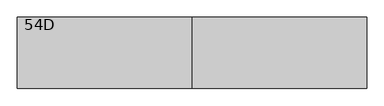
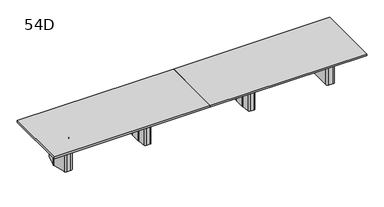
"""IFC4 building model written with IfcOpenShell, lengths in millimetres: furniture geometry, Coalesse_AM_Table_Conference_ETable2_Rectangular_22ft_FourBase : 54D."""

from ifc_helpers import new_model, si_unit, frame, origin, place, context, project, spatial, polyline, circle_curve, outline, extrude, source, transform, mapped, element, save
from ifc_brep_helpers import plane_surface, cylinder_surface, revolved_surface, advanced_brep


def furniture_54d_f987d63c(model_context):
    return source(origin(), model_context, "Body", "SolidModel", [
        advanced_brep(
        [(1153.31875, 206.375, 3.175), (1127.91875, 231.775, 3.175), (1107.28125, 231.775, 3.175), (1081.88125, 206.375, 3.175), (1081.88125, -206.375, 3.175), (1107.28125, -231.775, 3.175), (1127.91875, -231.775, 3.175), (1153.31875, -206.375, 3.175), (1056.48125, 206.375, 0.0), (1107.28125, 257.175, 0.0), (1127.91875, 257.175, 0.0), (1178.71875, 206.375, 0.0), (1178.71875, -206.375, 0.0), (1127.91875, -257.175, 0.0), (1107.28125, -257.175, 0.0), (1056.48125, -206.375, 0.0), (1056.48125, -206.375, 3.175), (1056.48125, 206.375, 3.175), (1107.28125, -257.175, 3.175), (1127.91875, -257.175, 3.175), (1178.71875, -206.375, 3.175), (1178.71875, 206.375, 3.175), (1127.91875, 257.175, 3.175), (1107.28125, 257.175, 3.175), (1024.9784026, 106.2976848, 698.5), (1024.73125, 102.7629613, 698.5), (1024.73125, -102.7629613, 698.5), (1024.9784026, -106.2976848, 698.5), (1049.8011625, -282.9347235, 698.5), (1074.9540098, -304.8, 698.5), (1160.2459902, -304.8, 698.5), (1185.3988375, -282.9347235, 698.5), (1210.2215974, -106.2976848, 698.5), (1210.46875, -102.7629613, 698.5), (1210.46875, 102.7629613, 698.5), (1210.2215974, 106.2976848, 698.5), (1185.3988375, 282.9347235, 698.5), (1160.2459902, 304.8, 698.5), (1074.9540098, 304.8, 698.5), (1049.8011625, 282.9347235, 698.5), (1127.91875, 231.775, 698.5), (1153.31875, 206.375, 698.5), (1153.31875, -206.375, 698.5), (1127.91875, -231.775, 698.5), (1107.28125, -231.775, 698.5), (1081.88125, -206.375, 698.5), (1081.88125, 206.375, 698.5), (1107.28125, 231.775, 698.5), (1024.9784026, 106.2976848, 3.175), (1049.8011625, 282.9347235, 3.175), (1074.9540098, 304.8, 3.175), (1160.2459902, 304.8, 3.175), (1185.3988375, 282.9347235, 3.175), (1210.2215974, 106.2976848, 3.175), (1210.46875, 102.7629613, 3.175), (1210.46875, -102.7629613, 3.175), (1210.2215974, -106.2976848, 3.175), (1185.3988375, -282.9347235, 3.175), (1160.2459902, -304.8, 3.175), (1074.9540098, -304.8, 3.175), (1049.8011625, -282.9347235, 3.175), (1024.9784026, -106.2976848, 3.175), (1024.73125, -102.7629613, 3.175), (1024.73125, 102.7629613, 3.175)],
        [
            (0, 1, circle_curve(frame((1127.91875, 206.375, 3.175), z_axis=(0.0, 0.0, 1.0), x_axis=(1.0, 0.0, 0.0)), 25.4)),
            (1, 2),
            (2, 3, circle_curve(frame((1107.28125, 206.375, 3.175), z_axis=(0.0, 0.0, 1.0), x_axis=(1.0, 0.0, 0.0)), 25.4)),
            (3, 4),
            (4, 5, circle_curve(frame((1107.28125, -206.375, 3.175), z_axis=(0.0, 0.0, 1.0), x_axis=(1.0, 0.0, 0.0)), 25.4)),
            (5, 6),
            (6, 7, circle_curve(frame((1127.91875, -206.375, 3.175), z_axis=(0.0, 0.0, 1.0), x_axis=(1.0, 0.0, 0.0)), 25.4)),
            (7, 0),
            (8, 9, circle_curve(frame((1107.28125, 206.375, 0.0), z_axis=(0.0, 0.0, -1.0), x_axis=(1.0, 0.0, 0.0)), 50.8)),
            (9, 10),
            (10, 11, circle_curve(frame((1127.91875, 206.375, 0.0), z_axis=(0.0, 0.0, -1.0), x_axis=(1.0, 0.0, 0.0)), 50.8)),
            (11, 12),
            (12, 13, circle_curve(frame((1127.91875, -206.375, 0.0), z_axis=(0.0, 0.0, -1.0), x_axis=(1.0, 0.0, 0.0)), 50.8)),
            (13, 14),
            (14, 15, circle_curve(frame((1107.28125, -206.375, 0.0), z_axis=(0.0, 0.0, -1.0), x_axis=(1.0, 0.0, 0.0)), 50.8)),
            (15, 8),
            (15, 16),
            (16, 17),
            (17, 8),
            (14, 18),
            (18, 16, circle_curve(frame((1107.28125, -206.375, 3.175), z_axis=(0.0, 0.0, -1.0), x_axis=(1.0, 0.0, 0.0)), 50.8)),
            (13, 19),
            (19, 18),
            (12, 20),
            (20, 19, circle_curve(frame((1127.91875, -206.375, 3.175), z_axis=(0.0, 0.0, -1.0), x_axis=(1.0, 0.0, 0.0)), 50.8)),
            (11, 21),
            (21, 20),
            (10, 22),
            (22, 21, circle_curve(frame((1127.91875, 206.375, 3.175), z_axis=(0.0, 0.0, -1.0), x_axis=(1.0, 0.0, 0.0)), 50.8)),
            (9, 23),
            (23, 22),
            (17, 23, circle_curve(frame((1107.28125, 206.375, 3.175), z_axis=(0.0, 0.0, -1.0), x_axis=(1.0, 0.0, 0.0)), 50.8)),
            (24, 25, circle_curve(frame((1050.13125, 102.7629613, 698.5), z_axis=(0.0, 0.0, 1.0), x_axis=(1.0, 0.0, 0.0)), 25.4)),
            (25, 26),
            (26, 27, circle_curve(frame((1050.13125, -102.7629613, 698.5), z_axis=(0.0, 0.0, 1.0), x_axis=(1.0, 0.0, 0.0)), 25.4)),
            (27, 28),
            (28, 29, circle_curve(frame((1074.9540098, -279.4, 698.5), z_axis=(0.0, 0.0, 1.0), x_axis=(1.0, 0.0, 0.0)), 25.4)),
            (29, 30),
            (30, 31, circle_curve(frame((1160.2459902, -279.4, 698.5), z_axis=(0.0, 0.0, 1.0), x_axis=(1.0, 0.0, 0.0)), 25.4)),
            (31, 32),
            (32, 33, circle_curve(frame((1185.06875, -102.7629613, 698.5), z_axis=(0.0, 0.0, 1.0), x_axis=(1.0, 0.0, 0.0)), 25.4)),
            (33, 34),
            (34, 35, circle_curve(frame((1185.06875, 102.7629613, 698.5), z_axis=(0.0, 0.0, 1.0), x_axis=(1.0, 0.0, 0.0)), 25.4)),
            (35, 36),
            (36, 37, circle_curve(frame((1160.2459902, 279.4, 698.5), z_axis=(0.0, 0.0, 1.0), x_axis=(1.0, 0.0, 0.0)), 25.4)),
            (37, 38),
            (38, 39, circle_curve(frame((1074.9540098, 279.4, 698.5), z_axis=(0.0, 0.0, 1.0), x_axis=(1.0, 0.0, 0.0)), 25.4)),
            (39, 24),
            (40, 41, circle_curve(frame((1127.91875, 206.375, 698.5), z_axis=(0.0, 0.0, -1.0), x_axis=(1.0, 0.0, 0.0)), 25.4)),
            (41, 42),
            (42, 43, circle_curve(frame((1127.91875, -206.375, 698.5), z_axis=(0.0, 0.0, -1.0), x_axis=(1.0, 0.0, 0.0)), 25.4)),
            (43, 44),
            (44, 45, circle_curve(frame((1107.28125, -206.375, 698.5), z_axis=(0.0, 0.0, -1.0), x_axis=(1.0, 0.0, 0.0)), 25.4)),
            (45, 46),
            (46, 47, circle_curve(frame((1107.28125, 206.375, 698.5), z_axis=(0.0, 0.0, -1.0), x_axis=(1.0, 0.0, 0.0)), 25.4)),
            (47, 40),
            (48, 49),
            (49, 50, circle_curve(frame((1074.9540098, 279.4, 3.175), z_axis=(0.0, 0.0, -1.0), x_axis=(1.0, 0.0, 0.0)), 25.4)),
            (50, 51),
            (51, 52, circle_curve(frame((1160.2459902, 279.4, 3.175), z_axis=(0.0, 0.0, -1.0), x_axis=(1.0, 0.0, 0.0)), 25.4)),
            (52, 53),
            (53, 54, circle_curve(frame((1185.06875, 102.7629613, 3.175), z_axis=(0.0, 0.0, -1.0), x_axis=(1.0, 0.0, 0.0)), 25.4)),
            (54, 55),
            (55, 56, circle_curve(frame((1185.06875, -102.7629613, 3.175), z_axis=(0.0, 0.0, -1.0), x_axis=(1.0, 0.0, 0.0)), 25.4)),
            (56, 57),
            (57, 58, circle_curve(frame((1160.2459902, -279.4, 3.175), z_axis=(0.0, 0.0, -1.0), x_axis=(1.0, 0.0, 0.0)), 25.4)),
            (58, 59),
            (59, 60, circle_curve(frame((1074.9540098, -279.4, 3.175), z_axis=(0.0, 0.0, -1.0), x_axis=(1.0, 0.0, 0.0)), 25.4)),
            (60, 61),
            (61, 62, circle_curve(frame((1050.13125, -102.7629613, 3.175), z_axis=(0.0, 0.0, -1.0), x_axis=(1.0, 0.0, 0.0)), 25.4)),
            (62, 63),
            (63, 48, circle_curve(frame((1050.13125, 102.7629613, 3.175), z_axis=(0.0, 0.0, -1.0), x_axis=(1.0, 0.0, 0.0)), 25.4)),
            (24, 48),
            (63, 25),
            (62, 26),
            (61, 27),
            (60, 28),
            (59, 29),
            (58, 30),
            (57, 31),
            (56, 32),
            (55, 33),
            (54, 34),
            (53, 35),
            (52, 36),
            (51, 37),
            (50, 38),
            (49, 39),
            (40, 1),
            (0, 41),
            (7, 42),
            (6, 43),
            (5, 44),
            (4, 45),
            (3, 46),
            (2, 47),
        ],
        [
            plane_surface(frame((1056.48125, -206.375, 3.175), z_axis=(0.0, 0.0, 1.0), x_axis=(0.0, -1.0, 0.0))),
            plane_surface(frame((1056.48125, -206.375, 0.0), z_axis=(0.0, 0.0, -1.0), x_axis=(0.0, 1.0, 0.0))),
            plane_surface(frame((1056.48125, 206.375, 3.175), z_axis=(-1.0, 0.0, 0.0), x_axis=(0.0, 0.0, -1.0))),
            cylinder_surface(frame((1107.28125, -206.375, 0.0), z_axis=(0.0, 0.0, 1.0), x_axis=(1.0, 0.0, 0.0)), 50.8),
            plane_surface(frame((1107.28125, -257.175, 3.175), z_axis=(0.0, -1.0, 0.0), x_axis=(0.0, 0.0, -1.0))),
            cylinder_surface(frame((1127.91875, -206.375, 0.0), z_axis=(0.0, 0.0, 1.0), x_axis=(1.0, 0.0, 0.0)), 50.8),
            plane_surface(frame((1178.71875, -206.375, 3.175), z_axis=(1.0, 0.0, 0.0), x_axis=(0.0, 0.0, -1.0))),
            cylinder_surface(frame((1127.91875, 206.375, 0.0), z_axis=(0.0, 0.0, 1.0), x_axis=(1.0, 0.0, 0.0)), 50.8),
            plane_surface(frame((1127.91875, 257.175, 3.175), z_axis=(0.0, 1.0, 0.0), x_axis=(0.0, 0.0, -1.0))),
            cylinder_surface(frame((1107.28125, 206.375, 0.0), z_axis=(0.0, 0.0, 1.0), x_axis=(1.0, 0.0, 0.0)), 50.8),
            plane_surface(frame((1075.53125, 102.7629613, 698.5), z_axis=(0.0, 0.0, 1.0), x_axis=(0.0, 1.0, 0.0))),
            plane_surface(frame((1075.53125, 102.7629613, 3.175), z_axis=(0.0, 0.0, -1.0), x_axis=(0.0, -1.0, 0.0))),
            cylinder_surface(frame((1050.13125, 102.7629613, 3.175), z_axis=(0.0, 0.0, 1.0), x_axis=(1.0, 0.0, 0.0)), 25.4),
            plane_surface(frame((1024.73125, 102.7629613, 698.5), z_axis=(-1.0, 0.0, 0.0), x_axis=(0.0, 0.0, -1.0))),
            cylinder_surface(frame((1050.13125, -102.7629613, 3.175), z_axis=(0.0, 0.0, 1.0), x_axis=(1.0, 0.0, 0.0)), 25.4),
            plane_surface(frame((1024.9784026, -106.2976848, 698.5), z_axis=(-0.9902695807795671, -0.13916234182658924, 0.0), x_axis=(0.0, 0.0, -1.0))),
            cylinder_surface(frame((1074.9540098, -279.4, 3.175), z_axis=(0.0, 0.0, 1.0), x_axis=(1.0, 0.0, 0.0)), 25.4),
            plane_surface(frame((1074.9540098, -304.8, 698.5), z_axis=(0.0, -1.0, 0.0), x_axis=(0.0, 0.0, -1.0))),
            cylinder_surface(frame((1160.2459902, -279.4, 3.175), z_axis=(0.0, 0.0, 1.0), x_axis=(1.0, 0.0, 0.0)), 25.4),
            plane_surface(frame((1185.3988375, -282.9347235, 698.5), z_axis=(0.9902695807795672, -0.13916234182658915, 0.0), x_axis=(0.0, 0.0, -1.0))),
            cylinder_surface(frame((1185.06875, -102.7629613, 3.175), z_axis=(0.0, 0.0, 1.0), x_axis=(1.0, 0.0, 0.0)), 25.4),
            plane_surface(frame((1210.46875, -102.7629613, 698.5), z_axis=(1.0, 0.0, 0.0), x_axis=(0.0, 0.0, -1.0))),
            cylinder_surface(frame((1185.06875, 102.7629613, 3.175), z_axis=(0.0, 0.0, 1.0), x_axis=(1.0, 0.0, 0.0)), 25.4),
            plane_surface(frame((1210.2215974, 106.2976848, 698.5), z_axis=(0.9902695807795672, 0.1391623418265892, 0.0), x_axis=(0.0, 0.0, -1.0))),
            cylinder_surface(frame((1160.2459902, 279.4, 3.175), z_axis=(0.0, 0.0, 1.0), x_axis=(1.0, 0.0, 0.0)), 25.4),
            plane_surface(frame((1160.2459902, 304.8, 698.5), z_axis=(0.0, 1.0, 0.0), x_axis=(0.0, 0.0, -1.0))),
            cylinder_surface(frame((1074.9540098, 279.4, 3.175), z_axis=(0.0, 0.0, 1.0), x_axis=(1.0, 0.0, 0.0)), 25.4),
            plane_surface(frame((1049.8011625, 282.9347235, 698.5), z_axis=(-0.9902695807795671, 0.13916234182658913, 0.0), x_axis=(0.0, 0.0, -1.0))),
            revolved_surface(polyline([(1153.3187500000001, 206.375, 3.175), (1153.3187500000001, 206.375, 698.5)]), (1127.91875, 206.375, 0.0), (0.0, 0.0, -1.0)),
            plane_surface(frame((1153.31875, 206.375, 698.5), z_axis=(-1.0, 0.0, 0.0), x_axis=(0.0, 0.0, -1.0))),
            revolved_surface(polyline([(1153.3187500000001, -206.375, 3.175), (1153.3187500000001, -206.375, 698.5)]), (1127.91875, -206.375, 0.0), (0.0, 0.0, -1.0)),
            plane_surface(frame((1127.91875, -231.775, 698.5), z_axis=(0.0, 1.0, 0.0), x_axis=(0.0, 0.0, -1.0))),
            revolved_surface(polyline([(1132.68125, -206.375, 3.175), (1132.68125, -206.375, 698.5)]), (1107.28125, -206.375, 0.0), (0.0, 0.0, -1.0)),
            plane_surface(frame((1081.88125, -206.375, 698.5), z_axis=(1.0, 0.0, 0.0), x_axis=(0.0, 0.0, -1.0))),
            revolved_surface(polyline([(1132.68125, 206.375, 3.175), (1132.68125, 206.375, 698.5)]), (1107.28125, 206.375, 0.0), (0.0, 0.0, -1.0)),
            plane_surface(frame((1107.28125, 231.775, 698.5), z_axis=(0.0, -1.0, 0.0), x_axis=(0.0, 0.0, -1.0))),
        ],
        [
            (0, [[1, 2, 3, 4, 5, 6, 7, 8]]),
            (1, [[9, 10, 11, 12, 13, 14, 15, 16]]),
            (2, [[-16, 17, 18, 19]]),
            (3, [[-15, 20, 21, -17]]),
            (4, [[-14, 22, 23, -20]]),
            (5, [[-13, 24, 25, -22]]),
            (6, [[-12, 26, 27, -24]]),
            (7, [[-11, 28, 29, -26]]),
            (8, [[-10, 30, 31, -28]]),
            (9, [[-9, -19, 32, -30]]),
            (10, [[33, 34, 35, 36, 37, 38, 39, 40, 41, 42, 43, 44, 45, 46, 47, 48], [49, 50, 51, 52, 53, 54, 55, 56]]),
            (11, [[57, 58, 59, 60, 61, 62, 63, 64, 65, 66, 67, 68, 69, 70, 71, 72], [-18, -21, -23, -25, -27, -29, -31, -32]]),
            (12, [[-33, 73, -72, 74]]),
            (13, [[-34, -74, -71, 75]]),
            (14, [[-35, -75, -70, 76]]),
            (15, [[-36, -76, -69, 77]]),
            (16, [[-37, -77, -68, 78]]),
            (17, [[-38, -78, -67, 79]]),
            (18, [[-39, -79, -66, 80]]),
            (19, [[-40, -80, -65, 81]]),
            (20, [[-41, -81, -64, 82]]),
            (21, [[-42, -82, -63, 83]]),
            (22, [[-43, -83, -62, 84]]),
            (23, [[-44, -84, -61, 85]]),
            (24, [[-45, -85, -60, 86]]),
            (25, [[-46, -86, -59, 87]]),
            (26, [[-47, -87, -58, 88]]),
            (27, [[-48, -88, -57, -73]]),
            (28, [[-49, 89, -1, 90]]),
            (29, [[-50, -90, -8, 91]]),
            (30, [[-51, -91, -7, 92]]),
            (31, [[-52, -92, -6, 93]]),
            (32, [[-53, -93, -5, 94]]),
            (33, [[-54, -94, -4, 95]]),
            (34, [[-55, -95, -3, 96]]),
            (35, [[-56, -96, -2, -89]]),
        ],
    ),
        advanced_brep(
        [(-1081.88125, 206.375, 3.175), (-1107.28125, 231.775, 3.175), (-1127.91875, 231.775, 3.175), (-1153.31875, 206.375, 3.175), (-1153.31875, -206.375, 3.175), (-1127.91875, -231.775, 3.175), (-1107.28125, -231.775, 3.175), (-1081.88125, -206.375, 3.175), (-1178.71875, 206.375, 0.0), (-1127.91875, 257.175, 0.0), (-1107.28125, 257.175, 0.0), (-1056.48125, 206.375, 0.0), (-1056.48125, -206.375, 0.0), (-1107.28125, -257.175, 0.0), (-1127.91875, -257.175, 0.0), (-1178.71875, -206.375, 0.0), (-1178.71875, -206.375, 3.175), (-1178.71875, 206.375, 3.175), (-1127.91875, -257.175, 3.175), (-1107.28125, -257.175, 3.175), (-1056.48125, -206.375, 3.175), (-1056.48125, 206.375, 3.175), (-1107.28125, 257.175, 3.175), (-1127.91875, 257.175, 3.175), (-1210.2215974, 106.2976848, 698.5), (-1210.46875, 102.7629613, 698.5), (-1210.46875, -102.7629613, 698.5), (-1210.2215974, -106.2976848, 698.5), (-1185.3988375, -282.9347235, 698.5), (-1160.2459902, -304.8, 698.5), (-1074.9540098, -304.8, 698.5), (-1049.8011625, -282.9347235, 698.5), (-1024.9784026, -106.2976848, 698.5), (-1024.73125, -102.7629613, 698.5), (-1024.73125, 102.7629613, 698.5), (-1024.9784026, 106.2976848, 698.5), (-1049.8011625, 282.9347235, 698.5), (-1074.9540098, 304.8, 698.5), (-1160.2459902, 304.8, 698.5), (-1185.3988375, 282.9347235, 698.5), (-1107.28125, 231.775, 698.5), (-1081.88125, 206.375, 698.5), (-1081.88125, -206.375, 698.5), (-1107.28125, -231.775, 698.5), (-1127.91875, -231.775, 698.5), (-1153.31875, -206.375, 698.5), (-1153.31875, 206.375, 698.5), (-1127.91875, 231.775, 698.5), (-1210.2215974, 106.2976848, 3.175), (-1185.3988375, 282.9347235, 3.175), (-1160.2459902, 304.8, 3.175), (-1074.9540098, 304.8, 3.175), (-1049.8011625, 282.9347235, 3.175), (-1024.9784026, 106.2976848, 3.175), (-1024.73125, 102.7629613, 3.175), (-1024.73125, -102.7629613, 3.175), (-1024.9784026, -106.2976848, 3.175), (-1049.8011625, -282.9347235, 3.175), (-1074.9540098, -304.8, 3.175), (-1160.2459902, -304.8, 3.175), (-1185.3988375, -282.9347235, 3.175), (-1210.2215974, -106.2976848, 3.175), (-1210.46875, -102.7629613, 3.175), (-1210.46875, 102.7629613, 3.175)],
        [
            (0, 1, circle_curve(frame((-1107.28125, 206.375, 3.175), z_axis=(0.0, 0.0, 1.0), x_axis=(1.0, 0.0, 0.0)), 25.4)),
            (1, 2),
            (2, 3, circle_curve(frame((-1127.91875, 206.375, 3.175), z_axis=(0.0, 0.0, 1.0), x_axis=(1.0, 0.0, 0.0)), 25.4)),
            (3, 4),
            (4, 5, circle_curve(frame((-1127.91875, -206.375, 3.175), z_axis=(0.0, 0.0, 1.0), x_axis=(1.0, 0.0, 0.0)), 25.4)),
            (5, 6),
            (6, 7, circle_curve(frame((-1107.28125, -206.375, 3.175), z_axis=(0.0, 0.0, 1.0), x_axis=(1.0, 0.0, 0.0)), 25.4)),
            (7, 0),
            (8, 9, circle_curve(frame((-1127.91875, 206.375, 0.0), z_axis=(0.0, 0.0, -1.0), x_axis=(1.0, 0.0, 0.0)), 50.8)),
            (9, 10),
            (10, 11, circle_curve(frame((-1107.28125, 206.375, 0.0), z_axis=(0.0, 0.0, -1.0), x_axis=(1.0, 0.0, 0.0)), 50.8)),
            (11, 12),
            (12, 13, circle_curve(frame((-1107.28125, -206.375, 0.0), z_axis=(0.0, 0.0, -1.0), x_axis=(1.0, 0.0, 0.0)), 50.8)),
            (13, 14),
            (14, 15, circle_curve(frame((-1127.91875, -206.375, 0.0), z_axis=(0.0, 0.0, -1.0), x_axis=(1.0, 0.0, 0.0)), 50.8)),
            (15, 8),
            (15, 16),
            (16, 17),
            (17, 8),
            (14, 18),
            (18, 16, circle_curve(frame((-1127.91875, -206.375, 3.175), z_axis=(0.0, 0.0, -1.0), x_axis=(1.0, 0.0, 0.0)), 50.8)),
            (13, 19),
            (19, 18),
            (12, 20),
            (20, 19, circle_curve(frame((-1107.28125, -206.375, 3.175), z_axis=(0.0, 0.0, -1.0), x_axis=(1.0, 0.0, 0.0)), 50.8)),
            (11, 21),
            (21, 20),
            (10, 22),
            (22, 21, circle_curve(frame((-1107.28125, 206.375, 3.175), z_axis=(0.0, 0.0, -1.0), x_axis=(1.0, 0.0, 0.0)), 50.8)),
            (9, 23),
            (23, 22),
            (17, 23, circle_curve(frame((-1127.91875, 206.375, 3.175), z_axis=(0.0, 0.0, -1.0), x_axis=(1.0, 0.0, 0.0)), 50.8)),
            (24, 25, circle_curve(frame((-1185.06875, 102.7629613, 698.5), z_axis=(0.0, 0.0, 1.0), x_axis=(1.0, 0.0, 0.0)), 25.4)),
            (25, 26),
            (26, 27, circle_curve(frame((-1185.06875, -102.7629613, 698.5), z_axis=(0.0, 0.0, 1.0), x_axis=(1.0, 0.0, 0.0)), 25.4)),
            (27, 28),
            (28, 29, circle_curve(frame((-1160.2459902, -279.4, 698.5), z_axis=(0.0, 0.0, 1.0), x_axis=(1.0, 0.0, 0.0)), 25.4)),
            (29, 30),
            (30, 31, circle_curve(frame((-1074.9540098, -279.4, 698.5), z_axis=(0.0, 0.0, 1.0), x_axis=(1.0, 0.0, 0.0)), 25.4)),
            (31, 32),
            (32, 33, circle_curve(frame((-1050.13125, -102.7629613, 698.5), z_axis=(0.0, 0.0, 1.0), x_axis=(1.0, 0.0, 0.0)), 25.4)),
            (33, 34),
            (34, 35, circle_curve(frame((-1050.13125, 102.7629613, 698.5), z_axis=(0.0, 0.0, 1.0), x_axis=(1.0, 0.0, 0.0)), 25.4)),
            (35, 36),
            (36, 37, circle_curve(frame((-1074.9540098, 279.4, 698.5), z_axis=(0.0, 0.0, 1.0), x_axis=(1.0, 0.0, 0.0)), 25.4)),
            (37, 38),
            (38, 39, circle_curve(frame((-1160.2459902, 279.4, 698.5), z_axis=(0.0, 0.0, 1.0), x_axis=(1.0, 0.0, 0.0)), 25.4)),
            (39, 24),
            (40, 41, circle_curve(frame((-1107.28125, 206.375, 698.5), z_axis=(0.0, 0.0, -1.0), x_axis=(1.0, 0.0, 0.0)), 25.4)),
            (41, 42),
            (42, 43, circle_curve(frame((-1107.28125, -206.375, 698.5), z_axis=(0.0, 0.0, -1.0), x_axis=(1.0, 0.0, 0.0)), 25.4)),
            (43, 44),
            (44, 45, circle_curve(frame((-1127.91875, -206.375, 698.5), z_axis=(0.0, 0.0, -1.0), x_axis=(1.0, 0.0, 0.0)), 25.4)),
            (45, 46),
            (46, 47, circle_curve(frame((-1127.91875, 206.375, 698.5), z_axis=(0.0, 0.0, -1.0), x_axis=(1.0, 0.0, 0.0)), 25.4)),
            (47, 40),
            (48, 49),
            (49, 50, circle_curve(frame((-1160.2459902, 279.4, 3.175), z_axis=(0.0, 0.0, -1.0), x_axis=(1.0, 0.0, 0.0)), 25.4)),
            (50, 51),
            (51, 52, circle_curve(frame((-1074.9540098, 279.4, 3.175), z_axis=(0.0, 0.0, -1.0), x_axis=(1.0, 0.0, 0.0)), 25.4)),
            (52, 53),
            (53, 54, circle_curve(frame((-1050.13125, 102.7629613, 3.175), z_axis=(0.0, 0.0, -1.0), x_axis=(1.0, 0.0, 0.0)), 25.4)),
            (54, 55),
            (55, 56, circle_curve(frame((-1050.13125, -102.7629613, 3.175), z_axis=(0.0, 0.0, -1.0), x_axis=(1.0, 0.0, 0.0)), 25.4)),
            (56, 57),
            (57, 58, circle_curve(frame((-1074.9540098, -279.4, 3.175), z_axis=(0.0, 0.0, -1.0), x_axis=(1.0, 0.0, 0.0)), 25.4)),
            (58, 59),
            (59, 60, circle_curve(frame((-1160.2459902, -279.4, 3.175), z_axis=(0.0, 0.0, -1.0), x_axis=(1.0, 0.0, 0.0)), 25.4)),
            (60, 61),
            (61, 62, circle_curve(frame((-1185.06875, -102.7629613, 3.175), z_axis=(0.0, 0.0, -1.0), x_axis=(1.0, 0.0, 0.0)), 25.4)),
            (62, 63),
            (63, 48, circle_curve(frame((-1185.06875, 102.7629613, 3.175), z_axis=(0.0, 0.0, -1.0), x_axis=(1.0, 0.0, 0.0)), 25.4)),
            (24, 48),
            (63, 25),
            (62, 26),
            (61, 27),
            (60, 28),
            (59, 29),
            (58, 30),
            (57, 31),
            (56, 32),
            (55, 33),
            (54, 34),
            (53, 35),
            (52, 36),
            (51, 37),
            (50, 38),
            (49, 39),
            (40, 1),
            (0, 41),
            (7, 42),
            (6, 43),
            (5, 44),
            (4, 45),
            (3, 46),
            (2, 47),
        ],
        [
            plane_surface(frame((-1178.71875, -206.375, 3.175), z_axis=(0.0, 0.0, 1.0), x_axis=(0.0, -1.0, 0.0))),
            plane_surface(frame((-1178.71875, -206.375, 0.0), z_axis=(0.0, 0.0, -1.0), x_axis=(0.0, 1.0, 0.0))),
            plane_surface(frame((-1178.71875, 206.375, 3.175), z_axis=(-1.0, 0.0, 0.0), x_axis=(0.0, 0.0, -1.0))),
            cylinder_surface(frame((-1127.91875, -206.375, 0.0), z_axis=(0.0, 0.0, 1.0), x_axis=(1.0, 0.0, 0.0)), 50.8),
            plane_surface(frame((-1127.91875, -257.175, 3.175), z_axis=(0.0, -1.0, 0.0), x_axis=(0.0, 0.0, -1.0))),
            cylinder_surface(frame((-1107.28125, -206.375, 0.0), z_axis=(0.0, 0.0, 1.0), x_axis=(1.0, 0.0, 0.0)), 50.8),
            plane_surface(frame((-1056.48125, -206.375, 3.175), z_axis=(1.0, 0.0, 0.0), x_axis=(0.0, 0.0, -1.0))),
            cylinder_surface(frame((-1107.28125, 206.375, 0.0), z_axis=(0.0, 0.0, 1.0), x_axis=(1.0, 0.0, 0.0)), 50.8),
            plane_surface(frame((-1107.28125, 257.175, 3.175), z_axis=(0.0, 1.0, 0.0), x_axis=(0.0, 0.0, -1.0))),
            cylinder_surface(frame((-1127.91875, 206.375, 0.0), z_axis=(0.0, 0.0, 1.0), x_axis=(1.0, 0.0, 0.0)), 50.8),
            plane_surface(frame((-1159.66875, 102.7629613, 698.5), z_axis=(0.0, 0.0, 1.0), x_axis=(0.0, 1.0, 0.0))),
            plane_surface(frame((-1159.66875, 102.7629613, 3.175), z_axis=(0.0, 0.0, -1.0), x_axis=(0.0, -1.0, 0.0))),
            cylinder_surface(frame((-1185.06875, 102.7629613, 3.175), z_axis=(0.0, 0.0, 1.0), x_axis=(1.0, 0.0, 0.0)), 25.4),
            plane_surface(frame((-1210.46875, 102.7629613, 698.5), z_axis=(-1.0, 0.0, 0.0), x_axis=(0.0, 0.0, -1.0))),
            cylinder_surface(frame((-1185.06875, -102.7629613, 3.175), z_axis=(0.0, 0.0, 1.0), x_axis=(1.0, 0.0, 0.0)), 25.4),
            plane_surface(frame((-1210.2215974, -106.2976848, 698.5), z_axis=(-0.9902695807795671, -0.13916234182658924, 0.0), x_axis=(0.0, 0.0, -1.0))),
            cylinder_surface(frame((-1160.2459902, -279.4, 3.175), z_axis=(0.0, 0.0, 1.0), x_axis=(1.0, 0.0, 0.0)), 25.4),
            plane_surface(frame((-1160.2459902, -304.8, 698.5), z_axis=(0.0, -1.0, 0.0), x_axis=(0.0, 0.0, -1.0))),
            cylinder_surface(frame((-1074.9540098, -279.4, 3.175), z_axis=(0.0, 0.0, 1.0), x_axis=(1.0, 0.0, 0.0)), 25.4),
            plane_surface(frame((-1049.8011625, -282.9347235, 698.5), z_axis=(0.9902695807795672, -0.13916234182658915, 0.0), x_axis=(0.0, 0.0, -1.0))),
            cylinder_surface(frame((-1050.13125, -102.7629613, 3.175), z_axis=(0.0, 0.0, 1.0), x_axis=(1.0, 0.0, 0.0)), 25.4),
            plane_surface(frame((-1024.73125, -102.7629613, 698.5), z_axis=(1.0, 0.0, 0.0), x_axis=(0.0, 0.0, -1.0))),
            cylinder_surface(frame((-1050.13125, 102.7629613, 3.175), z_axis=(0.0, 0.0, 1.0), x_axis=(1.0, 0.0, 0.0)), 25.4),
            plane_surface(frame((-1024.9784026, 106.2976848, 698.5), z_axis=(0.9902695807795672, 0.1391623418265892, 0.0), x_axis=(0.0, 0.0, -1.0))),
            cylinder_surface(frame((-1074.9540098, 279.4, 3.175), z_axis=(0.0, 0.0, 1.0), x_axis=(1.0, 0.0, 0.0)), 25.4),
            plane_surface(frame((-1074.9540098, 304.8, 698.5), z_axis=(0.0, 1.0, 0.0), x_axis=(0.0, 0.0, -1.0))),
            cylinder_surface(frame((-1160.2459902, 279.4, 3.175), z_axis=(0.0, 0.0, 1.0), x_axis=(1.0, 0.0, 0.0)), 25.4),
            plane_surface(frame((-1185.3988375, 282.9347235, 698.5), z_axis=(-0.9902695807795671, 0.13916234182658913, 0.0), x_axis=(0.0, 0.0, -1.0))),
            revolved_surface(polyline([(-1081.88125, 206.375, 3.175), (-1081.88125, 206.375, 698.5)]), (-1107.28125, 206.375, 0.0), (0.0, 0.0, -1.0)),
            plane_surface(frame((-1081.88125, 206.375, 698.5), z_axis=(-1.0, 0.0, 0.0), x_axis=(0.0, 0.0, -1.0))),
            revolved_surface(polyline([(-1081.88125, -206.375, 3.175), (-1081.88125, -206.375, 698.5)]), (-1107.28125, -206.375, 0.0), (0.0, 0.0, -1.0)),
            plane_surface(frame((-1107.28125, -231.775, 698.5), z_axis=(0.0, 1.0, 0.0), x_axis=(0.0, 0.0, -1.0))),
            revolved_surface(polyline([(-1102.51875, -206.375, 3.175), (-1102.51875, -206.375, 698.5)]), (-1127.91875, -206.375, 0.0), (0.0, 0.0, -1.0)),
            plane_surface(frame((-1153.31875, -206.375, 698.5), z_axis=(1.0, 0.0, 0.0), x_axis=(0.0, 0.0, -1.0))),
            revolved_surface(polyline([(-1102.51875, 206.375, 3.175), (-1102.51875, 206.375, 698.5)]), (-1127.91875, 206.375, 0.0), (0.0, 0.0, -1.0)),
            plane_surface(frame((-1127.91875, 231.775, 698.5), z_axis=(0.0, -1.0, 0.0), x_axis=(0.0, 0.0, -1.0))),
        ],
        [
            (0, [[1, 2, 3, 4, 5, 6, 7, 8]]),
            (1, [[9, 10, 11, 12, 13, 14, 15, 16]]),
            (2, [[-16, 17, 18, 19]]),
            (3, [[-15, 20, 21, -17]]),
            (4, [[-14, 22, 23, -20]]),
            (5, [[-13, 24, 25, -22]]),
            (6, [[-12, 26, 27, -24]]),
            (7, [[-11, 28, 29, -26]]),
            (8, [[-10, 30, 31, -28]]),
            (9, [[-9, -19, 32, -30]]),
            (10, [[33, 34, 35, 36, 37, 38, 39, 40, 41, 42, 43, 44, 45, 46, 47, 48], [49, 50, 51, 52, 53, 54, 55, 56]]),
            (11, [[57, 58, 59, 60, 61, 62, 63, 64, 65, 66, 67, 68, 69, 70, 71, 72], [-18, -21, -23, -25, -27, -29, -31, -32]]),
            (12, [[-33, 73, -72, 74]]),
            (13, [[-34, -74, -71, 75]]),
            (14, [[-35, -75, -70, 76]]),
            (15, [[-36, -76, -69, 77]]),
            (16, [[-37, -77, -68, 78]]),
            (17, [[-38, -78, -67, 79]]),
            (18, [[-39, -79, -66, 80]]),
            (19, [[-40, -80, -65, 81]]),
            (20, [[-41, -81, -64, 82]]),
            (21, [[-42, -82, -63, 83]]),
            (22, [[-43, -83, -62, 84]]),
            (23, [[-44, -84, -61, 85]]),
            (24, [[-45, -85, -60, 86]]),
            (25, [[-46, -86, -59, 87]]),
            (26, [[-47, -87, -58, 88]]),
            (27, [[-48, -88, -57, -73]]),
            (28, [[-49, 89, -1, 90]]),
            (29, [[-50, -90, -8, 91]]),
            (30, [[-51, -91, -7, 92]]),
            (31, [[-52, -92, -6, 93]]),
            (32, [[-53, -93, -5, 94]]),
            (33, [[-54, -94, -4, 95]]),
            (34, [[-55, -95, -3, 96]]),
            (35, [[-56, -96, -2, -89]]),
        ],
    ),
        advanced_brep(
        [(2894.224548, 274.2093613, 698.5), (2854.3579246, 304.8, 698.5), (2765.425, 304.8, 698.5), (2724.15, 263.525, 698.5), (2724.15, -263.525, 698.5), (2765.425, -304.8, 698.5), (2854.3579246, -304.8, 698.5), (2894.224548, -274.2093613, 698.5), (2964.8503901, -10.6333708, 698.5), (2964.8503901, 10.6333708, 698.5), (2762.25, -206.375, 698.5), (2762.25, 206.375, 698.5), (2787.65, 231.775, 698.5), (2846.6608422, 231.775, 698.5), (2871.195338, 212.9490792, 698.5), (2909.8875, 68.54974, 698.5), (2909.8875, -68.54974, 698.5), (2871.195338, -212.9490792, 698.5), (2846.6608422, -231.775, 698.5), (2787.65, -231.775, 698.5), (2894.224548, 274.2093613, 3.175), (2964.8503901, 10.6333708, 3.175), (2964.8503901, -10.6333708, 3.175), (2894.224548, -274.2093613, 3.175), (2854.3579246, -304.8, 3.175), (2765.425, -304.8, 3.175), (2724.15, -263.525, 3.175), (2724.15, 263.525, 3.175), (2765.425, 304.8, 3.175), (2854.3579246, 304.8, 3.175), (2883.4625859, 216.2361187, 3.175), (2846.6608422, 244.475, 3.175), (2787.65, 244.475, 3.175), (2749.55, 206.375, 3.175), (2749.55, -206.375, 3.175), (2787.65, -244.475, 3.175), (2846.6608422, -244.475, 3.175), (2883.4625859, -216.2361187, 3.175), (2922.5875, -70.2217466, 3.175), (2922.5875, 70.2217466, 3.175), (2787.65, -231.775, 3.175), (2762.25, -206.375, 3.175), (2846.6608422, -231.775, 3.175), (2871.195338, -212.9490792, 3.175), (2909.8875, -68.54974, 3.175), (2909.8875, 68.54974, 3.175), (2871.195338, 212.9490792, 3.175), (2846.6608422, 231.775, 3.175), (2787.65, 231.775, 3.175), (2762.25, 206.375, 3.175), (2883.4625859, 216.2361187, 0.0), (2922.5875, 70.2217466, 0.0), (2922.5875, -70.2217466, 0.0), (2883.4625859, -216.2361187, 0.0), (2846.6608422, -244.475, 0.0), (2787.65, -244.475, 0.0), (2749.55, -206.375, 0.0), (2749.55, 206.375, 0.0), (2787.65, 244.475, 0.0), (2846.6608422, 244.475, 0.0)],
        [
            (0, 1, circle_curve(frame((2854.3579246, 263.5270004, 698.5), z_axis=(0.0, 0.0, 1.0), x_axis=(-1.0, 0.0, 0.0)), 41.2729996)),
            (1, 2),
            (2, 3, circle_curve(frame((2765.425, 263.525, 698.5), z_axis=(0.0, 0.0, 1.0), x_axis=(-1.0, 0.0, 0.0)), 41.275)),
            (3, 4),
            (4, 5, circle_curve(frame((2765.425, -263.525, 698.5), z_axis=(0.0, 0.0, 1.0), x_axis=(-1.0, 0.0, 0.0)), 41.275)),
            (5, 6),
            (6, 7, circle_curve(frame((2854.3579246, -263.5270004, 698.5), z_axis=(0.0, 0.0, 1.0), x_axis=(-1.0, 0.0, 0.0)), 41.2729996)),
            (7, 8),
            (8, 9, circle_curve(frame((2925.1665979, 0.0, 698.5), z_axis=(0.0, 0.0, 1.0), x_axis=(-1.0, 0.0, 0.0)), 41.0837187)),
            (9, 0),
            (10, 11),
            (11, 12, circle_curve(frame((2787.65, 206.375, 698.5), z_axis=(0.0, 0.0, -1.0), x_axis=(-1.0, 0.0, 0.0)), 25.4)),
            (12, 13),
            (13, 14, circle_curve(frame((2846.6608422, 206.375, 698.5), z_axis=(0.0, 0.0, -1.0), x_axis=(-1.0, 0.0, 0.0)), 25.4)),
            (14, 15),
            (15, 16),
            (16, 17),
            (17, 18, circle_curve(frame((2846.6608422, -206.375, 698.5), z_axis=(0.0, 0.0, -1.0), x_axis=(-1.0, 0.0, 0.0)), 25.4)),
            (18, 19),
            (19, 10, circle_curve(frame((2787.65, -206.375, 698.5), z_axis=(0.0, 0.0, -1.0), x_axis=(-1.0, 0.0, 0.0)), 25.4)),
            (20, 21),
            (21, 22, circle_curve(frame((2925.1665979, 0.0, 3.175), z_axis=(0.0, 0.0, -1.0), x_axis=(-1.0, 0.0, 0.0)), 41.0837187)),
            (22, 23),
            (23, 24, circle_curve(frame((2854.3579246, -263.5270004, 3.175), z_axis=(0.0, 0.0, -1.0), x_axis=(-1.0, 0.0, 0.0)), 41.2729996)),
            (24, 25),
            (25, 26, circle_curve(frame((2765.425, -263.525, 3.175), z_axis=(0.0, 0.0, -1.0), x_axis=(-1.0, 0.0, 0.0)), 41.275)),
            (26, 27),
            (27, 28, circle_curve(frame((2765.425, 263.525, 3.175), z_axis=(0.0, 0.0, -1.0), x_axis=(-1.0, 0.0, 0.0)), 41.275)),
            (28, 29),
            (29, 20, circle_curve(frame((2854.3579246, 263.5270004, 3.175), z_axis=(0.0, 0.0, -1.0), x_axis=(-1.0, 0.0, 0.0)), 41.2729996)),
            (30, 31, circle_curve(frame((2846.6608422, 206.375, 3.175), z_axis=(0.0, 0.0, 1.0), x_axis=(-1.0, 0.0, 0.0)), 38.1)),
            (31, 32),
            (32, 33, circle_curve(frame((2787.65, 206.375, 3.175), z_axis=(0.0, 0.0, 1.0), x_axis=(-1.0, 0.0, 0.0)), 38.1)),
            (33, 34),
            (34, 35, circle_curve(frame((2787.65, -206.375, 3.175), z_axis=(0.0, 0.0, 1.0), x_axis=(-1.0, 0.0, 0.0)), 38.1)),
            (35, 36),
            (36, 37, circle_curve(frame((2846.6608422, -206.375, 3.175), z_axis=(0.0, 0.0, 1.0), x_axis=(-1.0, 0.0, 0.0)), 38.1)),
            (37, 38),
            (38, 39),
            (39, 30),
            (9, 21),
            (20, 0),
            (8, 22),
            (7, 23),
            (6, 24),
            (5, 25),
            (4, 26),
            (3, 27),
            (2, 28),
            (1, 29),
            (19, 40),
            (40, 41, circle_curve(frame((2787.65, -206.375, 3.175), z_axis=(0.0, 0.0, -1.0), x_axis=(-1.0, 0.0, 0.0)), 25.4)),
            (41, 10),
            (18, 42),
            (42, 40),
            (17, 43),
            (43, 42, circle_curve(frame((2846.6608422, -206.375, 3.175), z_axis=(0.0, 0.0, -1.0), x_axis=(-1.0, 0.0, 0.0)), 25.4)),
            (16, 44),
            (44, 43),
            (15, 45),
            (45, 44),
            (14, 46),
            (46, 45),
            (13, 47),
            (47, 46, circle_curve(frame((2846.6608422, 206.375, 3.175), z_axis=(0.0, 0.0, -1.0), x_axis=(-1.0, 0.0, 0.0)), 25.4)),
            (12, 48),
            (48, 47),
            (11, 49),
            (49, 48, circle_curve(frame((2787.65, 206.375, 3.175), z_axis=(0.0, 0.0, -1.0), x_axis=(-1.0, 0.0, 0.0)), 25.4)),
            (41, 49),
            (50, 51),
            (51, 52),
            (52, 53),
            (53, 54, circle_curve(frame((2846.6608422, -206.375, 0.0), z_axis=(0.0, 0.0, -1.0), x_axis=(-1.0, 0.0, 0.0)), 38.1)),
            (54, 55),
            (55, 56, circle_curve(frame((2787.65, -206.375, 0.0), z_axis=(0.0, 0.0, -1.0), x_axis=(-1.0, 0.0, 0.0)), 38.1)),
            (56, 57),
            (57, 58, circle_curve(frame((2787.65, 206.375, 0.0), z_axis=(0.0, 0.0, -1.0), x_axis=(-1.0, 0.0, 0.0)), 38.1)),
            (58, 59),
            (59, 50, circle_curve(frame((2846.6608422, 206.375, 0.0), z_axis=(0.0, 0.0, -1.0), x_axis=(-1.0, 0.0, 0.0)), 38.1)),
            (50, 30),
            (39, 51),
            (38, 52),
            (37, 53),
            (36, 54),
            (35, 55),
            (34, 56),
            (33, 57),
            (32, 58),
            (31, 59),
        ],
        [
            plane_surface(frame((2964.8374275, 10.6817473, 698.5), z_axis=(0.0, 0.0, 1.0000000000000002), x_axis=(0.25882201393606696, -0.9659250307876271, 0.0))),
            plane_surface(frame((2964.8374275, 10.6817473, 3.175), z_axis=(0.0, 0.0, -1.0000000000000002), x_axis=(-0.25882201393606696, 0.9659250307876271, 0.0))),
            plane_surface(frame((2894.224548, 274.2093613, 698.5), z_axis=(0.9659250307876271, 0.25882201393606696, 0.0), x_axis=(0.0, 0.0, -1.0))),
            cylinder_surface(frame((2925.1665979, 0.0, 3.175), z_axis=(0.0, 0.0, 1.0), x_axis=(-1.0, 0.0, 0.0)), 41.0837187),
            plane_surface(frame((2964.8503901, -10.6333708, 698.5), z_axis=(0.9659250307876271, -0.2588220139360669, 0.0), x_axis=(0.0, 0.0, -1.0))),
            cylinder_surface(frame((2854.3579246, -263.5270004, 3.175), z_axis=(0.0, 0.0, 1.0), x_axis=(-1.0, 0.0, 0.0)), 41.2729996),
            plane_surface(frame((2854.3579246, -304.8, 698.5), z_axis=(0.0, -1.0, 0.0), x_axis=(0.0, 0.0, -1.0))),
            cylinder_surface(frame((2765.425, -263.525, 3.175), z_axis=(0.0, 0.0, 1.0), x_axis=(-1.0, 0.0, 0.0)), 41.275),
            plane_surface(frame((2724.15, -263.525, 698.5), z_axis=(-1.0, 0.0, 0.0), x_axis=(0.0, 0.0, -1.0))),
            cylinder_surface(frame((2765.425, 263.525, 3.175), z_axis=(0.0, 0.0, 1.0), x_axis=(-1.0, 0.0, 0.0)), 41.275),
            plane_surface(frame((2765.425, 304.8, 698.5), z_axis=(0.0, 1.0, 0.0), x_axis=(0.0, 0.0, -1.0))),
            cylinder_surface(frame((2854.3579246, 263.5270004, 3.175), z_axis=(0.0, 0.0, 1.0), x_axis=(-1.0, 0.0, 0.0)), 41.2729996),
            revolved_surface(polyline([(2762.25, -206.375, 3.175), (2762.25, -206.375, 698.5)]), (2787.65, -206.375, 0.0), (0.0, 0.0, -1.0)),
            plane_surface(frame((2787.65, -231.775, 698.5), z_axis=(0.0, 1.0, 0.0), x_axis=(0.0, 0.0, -1.0))),
            revolved_surface(polyline([(2821.2608422, -206.375, 3.175), (2821.2608422, -206.375, 698.5)]), (2846.6608422, -206.375, 0.0), (0.0, 0.0, -1.0)),
            plane_surface(frame((2871.195338, -212.9490792, 698.5), z_axis=(-0.9659250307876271, 0.2588220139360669, 0.0), x_axis=(0.0, 0.0, -1.0))),
            plane_surface(frame((2909.8875, -68.54974, 698.5), z_axis=(-1.0, 0.0, 0.0), x_axis=(0.0, 0.0, -1.0))),
            plane_surface(frame((2909.8875, 68.54974, 698.5), z_axis=(-0.9659250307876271, -0.25882201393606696, 0.0), x_axis=(0.0, 0.0, -1.0))),
            revolved_surface(polyline([(2821.2608422, 206.375, 3.175), (2821.2608422, 206.375, 698.5)]), (2846.6608422, 206.375, 0.0), (0.0, 0.0, -1.0)),
            plane_surface(frame((2846.6608422, 231.775, 698.5), z_axis=(0.0, -1.0, 0.0), x_axis=(0.0, 0.0, -1.0))),
            revolved_surface(polyline([(2762.25, 206.375, 3.175), (2762.25, 206.375, 698.5)]), (2787.65, 206.375, 0.0), (0.0, 0.0, -1.0)),
            plane_surface(frame((2762.25, 206.375, 698.5), z_axis=(1.0, 0.0, 0.0), x_axis=(0.0, 0.0, -1.0))),
            plane_surface(frame((2922.1547479, 71.8367796, 3.175), z_axis=(0.0, 0.0, 1.0), x_axis=(0.25882201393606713, -0.965925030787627, 0.0))),
            plane_surface(frame((2922.1547479, 71.8367796, 0.0), z_axis=(0.0, 0.0, -1.0), x_axis=(-0.25882201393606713, 0.965925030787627, 0.0))),
            plane_surface(frame((2883.4625859, 216.2361187, 3.175), z_axis=(0.965925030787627, 0.25882201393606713, 0.0), x_axis=(0.0, 0.0, -1.0))),
            plane_surface(frame((2922.5875, 70.2217466, 3.175), z_axis=(1.0, 0.0, 0.0), x_axis=(0.0, 0.0, -1.0))),
            plane_surface(frame((2922.5875, -70.2217466, 3.175), z_axis=(0.9659250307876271, -0.2588220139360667, 0.0), x_axis=(0.0, 0.0, -1.0))),
            cylinder_surface(frame((2846.6608422, -206.375, 0.0), z_axis=(0.0, 0.0, 1.0), x_axis=(-1.0, 0.0, 0.0)), 38.1),
            plane_surface(frame((2846.6608422, -244.475, 3.175), z_axis=(0.0, -1.0, 0.0), x_axis=(0.0, 0.0, -1.0))),
            cylinder_surface(frame((2787.65, -206.375, 0.0), z_axis=(0.0, 0.0, 1.0), x_axis=(-1.0, 0.0, 0.0)), 38.1),
            plane_surface(frame((2749.55, -206.375, 3.175), z_axis=(-1.0, 0.0, 0.0), x_axis=(0.0, 0.0, -1.0))),
            cylinder_surface(frame((2787.65, 206.375, 0.0), z_axis=(0.0, 0.0, 1.0), x_axis=(-1.0, 0.0, 0.0)), 38.1),
            plane_surface(frame((2787.65, 244.475, 3.175), z_axis=(0.0, 1.0, 0.0), x_axis=(0.0, 0.0, -1.0))),
            cylinder_surface(frame((2846.6608422, 206.375, 0.0), z_axis=(0.0, 0.0, 1.0), x_axis=(-1.0, 0.0, 0.0)), 38.1),
        ],
        [
            (0, [[1, 2, 3, 4, 5, 6, 7, 8, 9, 10], [11, 12, 13, 14, 15, 16, 17, 18, 19, 20]]),
            (1, [[21, 22, 23, 24, 25, 26, 27, 28, 29, 30], [31, 32, 33, 34, 35, 36, 37, 38, 39, 40]]),
            (2, [[41, -21, 42, -10]]),
            (3, [[43, -22, -41, -9]]),
            (4, [[44, -23, -43, -8]]),
            (5, [[45, -24, -44, -7]]),
            (6, [[46, -25, -45, -6]]),
            (7, [[47, -26, -46, -5]]),
            (8, [[48, -27, -47, -4]]),
            (9, [[49, -28, -48, -3]]),
            (10, [[50, -29, -49, -2]]),
            (11, [[-42, -30, -50, -1]]),
            (12, [[51, 52, 53, -20]]),
            (13, [[54, 55, -51, -19]]),
            (14, [[56, 57, -54, -18]]),
            (15, [[58, 59, -56, -17]]),
            (16, [[60, 61, -58, -16]]),
            (17, [[62, 63, -60, -15]]),
            (18, [[64, 65, -62, -14]]),
            (19, [[66, 67, -64, -13]]),
            (20, [[68, 69, -66, -12]]),
            (21, [[-53, 70, -68, -11]]),
            (22, [[-55, -57, -59, -61, -63, -65, -67, -69, -70, -52]]),
            (23, [[71, 72, 73, 74, 75, 76, 77, 78, 79, 80]]),
            (24, [[81, -40, 82, -71]]),
            (25, [[-82, -39, 83, -72]]),
            (26, [[-83, -38, 84, -73]]),
            (27, [[-84, -37, 85, -74]]),
            (28, [[-85, -36, 86, -75]]),
            (29, [[-86, -35, 87, -76]]),
            (30, [[-87, -34, 88, -77]]),
            (31, [[-88, -33, 89, -78]]),
            (32, [[-89, -32, 90, -79]]),
            (33, [[-90, -31, -81, -80]]),
        ],
    ),
        advanced_brep(
        [(-2905.337048, 274.2093613, 698.5), (-2975.9628901, 10.6333708, 698.5), (-2975.9628901, -10.6333708, 698.5), (-2905.337048, -274.2093613, 698.5), (-2865.4704246, -304.8, 698.5), (-2776.5375, -304.8, 698.5), (-2735.2625, -263.525, 698.5), (-2735.2625, 263.525, 698.5), (-2776.5375, 304.8, 698.5), (-2865.4704246, 304.8, 698.5), (-2773.3625, -206.375, 698.5), (-2798.7625, -231.775, 698.5), (-2857.7733422, -231.775, 698.5), (-2882.307838, -212.9490792, 698.5), (-2921.0, -68.54974, 698.5), (-2921.0, 68.54974, 698.5), (-2882.307838, 212.9490792, 698.5), (-2857.7733422, 231.775, 698.5), (-2798.7625, 231.775, 698.5), (-2773.3625, 206.375, 698.5), (-2905.337048, 274.2093613, 3.175), (-2865.4704246, 304.8, 3.175), (-2776.5375, 304.8, 3.175), (-2735.2625, 263.525, 3.175), (-2735.2625, -263.525, 3.175), (-2776.5375, -304.8, 3.175), (-2865.4704246, -304.8, 3.175), (-2905.337048, -274.2093613, 3.175), (-2975.9628901, -10.6333708, 3.175), (-2975.9628901, 10.6333708, 3.175), (-2894.5750859, 216.2361187, 3.175), (-2933.7, 70.2217466, 3.175), (-2933.7, -70.2217466, 3.175), (-2894.5750859, -216.2361187, 3.175), (-2857.7733422, -244.475, 3.175), (-2798.7625, -244.475, 3.175), (-2760.6625, -206.375, 3.175), (-2760.6625, 206.375, 3.175), (-2798.7625, 244.475, 3.175), (-2857.7733422, 244.475, 3.175), (-2773.3625, -206.375, 3.175), (-2798.7625, -231.775, 3.175), (-2857.7733422, -231.775, 3.175), (-2882.307838, -212.9490792, 3.175), (-2921.0, -68.54974, 3.175), (-2921.0, 68.54974, 3.175), (-2882.307838, 212.9490792, 3.175), (-2857.7733422, 231.775, 3.175), (-2798.7625, 231.775, 3.175), (-2773.3625, 206.375, 3.175), (-2894.5750859, 216.2361187, 0.0), (-2857.7733422, 244.475, 0.0), (-2798.7625, 244.475, 0.0), (-2760.6625, 206.375, 0.0), (-2760.6625, -206.375, 0.0), (-2798.7625, -244.475, 0.0), (-2857.7733422, -244.475, 0.0), (-2894.5750859, -216.2361187, 0.0), (-2933.7, -70.2217466, 0.0), (-2933.7, 70.2217466, 0.0)],
        [
            (0, 1),
            (1, 2, circle_curve(frame((-2936.2790979, 0.0, 698.5), z_axis=(0.0, 0.0, 1.0), x_axis=(1.0, 0.0, 0.0)), 41.0837187)),
            (2, 3),
            (3, 4, circle_curve(frame((-2865.4704246, -263.5270004, 698.5), z_axis=(0.0, 0.0, 1.0), x_axis=(1.0, 0.0, 0.0)), 41.2729996)),
            (4, 5),
            (5, 6, circle_curve(frame((-2776.5375, -263.525, 698.5), z_axis=(0.0, 0.0, 1.0), x_axis=(1.0, 0.0, 0.0)), 41.275)),
            (6, 7),
            (7, 8, circle_curve(frame((-2776.5375, 263.525, 698.5), z_axis=(0.0, 0.0, 1.0), x_axis=(1.0, 0.0, 0.0)), 41.275)),
            (8, 9),
            (9, 0, circle_curve(frame((-2865.4704246, 263.5270004, 698.5), z_axis=(0.0, 0.0, 1.0), x_axis=(1.0, 0.0, 0.0)), 41.2729996)),
            (10, 11, circle_curve(frame((-2798.7625, -206.375, 698.5), z_axis=(0.0, 0.0, -1.0), x_axis=(1.0, 0.0, 0.0)), 25.4)),
            (11, 12),
            (12, 13, circle_curve(frame((-2857.7733422, -206.375, 698.5), z_axis=(0.0, 0.0, -1.0), x_axis=(1.0, 0.0, 0.0)), 25.4)),
            (13, 14),
            (14, 15),
            (15, 16),
            (16, 17, circle_curve(frame((-2857.7733422, 206.375, 698.5), z_axis=(0.0, 0.0, -1.0), x_axis=(1.0, 0.0, 0.0)), 25.4)),
            (17, 18),
            (18, 19, circle_curve(frame((-2798.7625, 206.375, 698.5), z_axis=(0.0, 0.0, -1.0), x_axis=(1.0, 0.0, 0.0)), 25.4)),
            (19, 10),
            (20, 21, circle_curve(frame((-2865.4704246, 263.5270004, 3.175), z_axis=(0.0, 0.0, -1.0), x_axis=(1.0, 0.0, 0.0)), 41.2729996)),
            (21, 22),
            (22, 23, circle_curve(frame((-2776.5375, 263.525, 3.175), z_axis=(0.0, 0.0, -1.0), x_axis=(1.0, 0.0, 0.0)), 41.275)),
            (23, 24),
            (24, 25, circle_curve(frame((-2776.5375, -263.525, 3.175), z_axis=(0.0, 0.0, -1.0), x_axis=(1.0, 0.0, 0.0)), 41.275)),
            (25, 26),
            (26, 27, circle_curve(frame((-2865.4704246, -263.5270004, 3.175), z_axis=(0.0, 0.0, -1.0), x_axis=(1.0, 0.0, 0.0)), 41.2729996)),
            (27, 28),
            (28, 29, circle_curve(frame((-2936.2790979, 0.0, 3.175), z_axis=(0.0, 0.0, -1.0), x_axis=(1.0, 0.0, 0.0)), 41.0837187)),
            (29, 20),
            (30, 31),
            (31, 32),
            (32, 33),
            (33, 34, circle_curve(frame((-2857.7733422, -206.375, 3.175), z_axis=(0.0, 0.0, 1.0), x_axis=(1.0, 0.0, 0.0)), 38.1)),
            (34, 35),
            (35, 36, circle_curve(frame((-2798.7625, -206.375, 3.175), z_axis=(0.0, 0.0, 1.0), x_axis=(1.0, 0.0, 0.0)), 38.1)),
            (36, 37),
            (37, 38, circle_curve(frame((-2798.7625, 206.375, 3.175), z_axis=(0.0, 0.0, 1.0), x_axis=(1.0, 0.0, 0.0)), 38.1)),
            (38, 39),
            (39, 30, circle_curve(frame((-2857.7733422, 206.375, 3.175), z_axis=(0.0, 0.0, 1.0), x_axis=(1.0, 0.0, 0.0)), 38.1)),
            (0, 20),
            (29, 1),
            (28, 2),
            (27, 3),
            (26, 4),
            (25, 5),
            (24, 6),
            (23, 7),
            (22, 8),
            (21, 9),
            (10, 40),
            (40, 41, circle_curve(frame((-2798.7625, -206.375, 3.175), z_axis=(0.0, 0.0, -1.0), x_axis=(1.0, 0.0, 0.0)), 25.4)),
            (41, 11),
            (41, 42),
            (42, 12),
            (42, 43, circle_curve(frame((-2857.7733422, -206.375, 3.175), z_axis=(0.0, 0.0, -1.0), x_axis=(1.0, 0.0, 0.0)), 25.4)),
            (43, 13),
            (43, 44),
            (44, 14),
            (44, 45),
            (45, 15),
            (45, 46),
            (46, 16),
            (46, 47, circle_curve(frame((-2857.7733422, 206.375, 3.175), z_axis=(0.0, 0.0, -1.0), x_axis=(1.0, 0.0, 0.0)), 25.4)),
            (47, 17),
            (47, 48),
            (48, 18),
            (48, 49, circle_curve(frame((-2798.7625, 206.375, 3.175), z_axis=(0.0, 0.0, -1.0), x_axis=(1.0, 0.0, 0.0)), 25.4)),
            (49, 19),
            (49, 40),
            (50, 51, circle_curve(frame((-2857.7733422, 206.375, 0.0), z_axis=(0.0, 0.0, -1.0), x_axis=(1.0, 0.0, 0.0)), 38.1)),
            (51, 52),
            (52, 53, circle_curve(frame((-2798.7625, 206.375, 0.0), z_axis=(0.0, 0.0, -1.0), x_axis=(1.0, 0.0, 0.0)), 38.1)),
            (53, 54),
            (54, 55, circle_curve(frame((-2798.7625, -206.375, 0.0), z_axis=(0.0, 0.0, -1.0), x_axis=(1.0, 0.0, 0.0)), 38.1)),
            (55, 56),
            (56, 57, circle_curve(frame((-2857.7733422, -206.375, 0.0), z_axis=(0.0, 0.0, -1.0), x_axis=(1.0, 0.0, 0.0)), 38.1)),
            (57, 58),
            (58, 59),
            (59, 50),
            (59, 31),
            (30, 50),
            (58, 32),
            (57, 33),
            (56, 34),
            (55, 35),
            (54, 36),
            (53, 37),
            (52, 38),
            (51, 39),
        ],
        [
            plane_surface(frame((-2975.9499275, 10.6817473, 698.5), z_axis=(0.0, 0.0, 1.0000000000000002), x_axis=(-0.25882201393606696, -0.9659250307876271, 0.0))),
            plane_surface(frame((-2975.9499275, 10.6817473, 3.175), z_axis=(0.0, 0.0, -1.0000000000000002), x_axis=(0.25882201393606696, 0.9659250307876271, 0.0))),
            plane_surface(frame((-2905.337048, 274.2093613, 698.5), z_axis=(-0.9659250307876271, 0.25882201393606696, 0.0), x_axis=(0.0, 0.0, -1.0))),
            cylinder_surface(frame((-2936.2790979, 0.0, 3.175), z_axis=(0.0, 0.0, 1.0), x_axis=(1.0, 0.0, 0.0)), 41.0837187),
            plane_surface(frame((-2975.9628901, -10.6333708, 698.5), z_axis=(-0.9659250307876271, -0.2588220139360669, 0.0), x_axis=(0.0, 0.0, -1.0))),
            cylinder_surface(frame((-2865.4704246, -263.5270004, 3.175), z_axis=(0.0, 0.0, 1.0), x_axis=(1.0, 0.0, 0.0)), 41.2729996),
            plane_surface(frame((-2865.4704246, -304.8, 698.5), z_axis=(0.0, -1.0, 0.0), x_axis=(0.0, 0.0, -1.0))),
            cylinder_surface(frame((-2776.5375, -263.525, 3.175), z_axis=(0.0, 0.0, 1.0), x_axis=(1.0, 0.0, 0.0)), 41.275),
            plane_surface(frame((-2735.2625, -263.525, 698.5), z_axis=(1.0, 0.0, 0.0), x_axis=(0.0, 0.0, -1.0))),
            cylinder_surface(frame((-2776.5375, 263.525, 3.175), z_axis=(0.0, 0.0, 1.0), x_axis=(1.0, 0.0, 0.0)), 41.275),
            plane_surface(frame((-2776.5375, 304.8, 698.5), z_axis=(0.0, 1.0, 0.0), x_axis=(0.0, 0.0, -1.0))),
            cylinder_surface(frame((-2865.4704246, 263.5270004, 3.175), z_axis=(0.0, 0.0, 1.0), x_axis=(1.0, 0.0, 0.0)), 41.2729996),
            revolved_surface(polyline([(-2773.3624999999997, -206.375, 3.175), (-2773.3624999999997, -206.375, 698.5)]), (-2798.7625, -206.375, 0.0), (0.0, 0.0, -1.0)),
            plane_surface(frame((-2798.7625, -231.775, 698.5), z_axis=(0.0, 1.0, 0.0), x_axis=(0.0, 0.0, -1.0))),
            revolved_surface(polyline([(-2832.3733422, -206.375, 3.175), (-2832.3733422, -206.375, 698.5)]), (-2857.7733422, -206.375, 0.0), (0.0, 0.0, -1.0)),
            plane_surface(frame((-2882.307838, -212.9490792, 698.5), z_axis=(0.9659250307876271, 0.2588220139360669, 0.0), x_axis=(0.0, 0.0, -1.0))),
            plane_surface(frame((-2921.0, -68.54974, 698.5), z_axis=(1.0, 0.0, 0.0), x_axis=(0.0, 0.0, -1.0))),
            plane_surface(frame((-2921.0, 68.54974, 698.5), z_axis=(0.9659250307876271, -0.25882201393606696, 0.0), x_axis=(0.0, 0.0, -1.0))),
            revolved_surface(polyline([(-2832.3733422, 206.375, 3.175), (-2832.3733422, 206.375, 698.5)]), (-2857.7733422, 206.375, 0.0), (0.0, 0.0, -1.0)),
            plane_surface(frame((-2857.7733422, 231.775, 698.5), z_axis=(0.0, -1.0, 0.0), x_axis=(0.0, 0.0, -1.0))),
            revolved_surface(polyline([(-2773.3624999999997, 206.375, 3.175), (-2773.3624999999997, 206.375, 698.5)]), (-2798.7625, 206.375, 0.0), (0.0, 0.0, -1.0)),
            plane_surface(frame((-2773.3625, 206.375, 698.5), z_axis=(-1.0, 0.0, 0.0), x_axis=(0.0, 0.0, -1.0))),
            plane_surface(frame((-2933.2672479, 71.8367796, 3.175), z_axis=(0.0, 0.0, 1.0), x_axis=(-0.25882201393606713, -0.965925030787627, 0.0))),
            plane_surface(frame((-2933.2672479, 71.8367796, 0.0), z_axis=(0.0, 0.0, -1.0), x_axis=(0.25882201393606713, 0.965925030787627, 0.0))),
            plane_surface(frame((-2894.5750859, 216.2361187, 3.175), z_axis=(-0.965925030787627, 0.25882201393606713, 0.0), x_axis=(0.0, 0.0, -1.0))),
            plane_surface(frame((-2933.7, 70.2217466, 3.175), z_axis=(-1.0, 0.0, 0.0), x_axis=(0.0, 0.0, -1.0))),
            plane_surface(frame((-2933.7, -70.2217466, 3.175), z_axis=(-0.9659250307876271, -0.2588220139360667, 0.0), x_axis=(0.0, 0.0, -1.0))),
            cylinder_surface(frame((-2857.7733422, -206.375, 0.0), z_axis=(0.0, 0.0, 1.0), x_axis=(1.0, 0.0, 0.0)), 38.1),
            plane_surface(frame((-2857.7733422, -244.475, 3.175), z_axis=(0.0, -1.0, 0.0), x_axis=(0.0, 0.0, -1.0))),
            cylinder_surface(frame((-2798.7625, -206.375, 0.0), z_axis=(0.0, 0.0, 1.0), x_axis=(1.0, 0.0, 0.0)), 38.1),
            plane_surface(frame((-2760.6625, -206.375, 3.175), z_axis=(1.0, 0.0, 0.0), x_axis=(0.0, 0.0, -1.0))),
            cylinder_surface(frame((-2798.7625, 206.375, 0.0), z_axis=(0.0, 0.0, 1.0), x_axis=(1.0, 0.0, 0.0)), 38.1),
            plane_surface(frame((-2798.7625, 244.475, 3.175), z_axis=(0.0, 1.0, 0.0), x_axis=(0.0, 0.0, -1.0))),
            cylinder_surface(frame((-2857.7733422, 206.375, 0.0), z_axis=(0.0, 0.0, 1.0), x_axis=(1.0, 0.0, 0.0)), 38.1),
        ],
        [
            (0, [[1, 2, 3, 4, 5, 6, 7, 8, 9, 10], [11, 12, 13, 14, 15, 16, 17, 18, 19, 20]]),
            (1, [[21, 22, 23, 24, 25, 26, 27, 28, 29, 30], [31, 32, 33, 34, 35, 36, 37, 38, 39, 40]]),
            (2, [[-1, 41, -30, 42]]),
            (3, [[-2, -42, -29, 43]]),
            (4, [[-3, -43, -28, 44]]),
            (5, [[-4, -44, -27, 45]]),
            (6, [[-5, -45, -26, 46]]),
            (7, [[-6, -46, -25, 47]]),
            (8, [[-7, -47, -24, 48]]),
            (9, [[-8, -48, -23, 49]]),
            (10, [[-9, -49, -22, 50]]),
            (11, [[-10, -50, -21, -41]]),
            (12, [[-11, 51, 52, 53]]),
            (13, [[-12, -53, 54, 55]]),
            (14, [[-13, -55, 56, 57]]),
            (15, [[-14, -57, 58, 59]]),
            (16, [[-15, -59, 60, 61]]),
            (17, [[-16, -61, 62, 63]]),
            (18, [[-17, -63, 64, 65]]),
            (19, [[-18, -65, 66, 67]]),
            (20, [[-19, -67, 68, 69]]),
            (21, [[-20, -69, 70, -51]]),
            (22, [[-52, -70, -68, -66, -64, -62, -60, -58, -56, -54]]),
            (23, [[71, 72, 73, 74, 75, 76, 77, 78, 79, 80]]),
            (24, [[-80, 81, -31, 82]]),
            (25, [[-79, 83, -32, -81]]),
            (26, [[-78, 84, -33, -83]]),
            (27, [[-77, 85, -34, -84]]),
            (28, [[-76, 86, -35, -85]]),
            (29, [[-75, 87, -36, -86]]),
            (30, [[-74, 88, -37, -87]]),
            (31, [[-73, 89, -38, -88]]),
            (32, [[-72, 90, -39, -89]]),
            (33, [[-71, -82, -40, -90]]),
        ],
    ),
        extrude(outline(polyline([(3352.8, 685.8), (3352.8, -685.8), (0.0, -685.8), (0.0, 685.8), (3352.8, 685.8)])), frame((0.0, 0.0, 698.5), z_axis=(0.0, 0.0, 1.0), x_axis=(1.0, 0.0, 0.0)), (0.0, 0.0, 1.0), 38.1),
        extrude(outline(polyline([(0.0, 685.8), (0.0, -685.8), (-3352.8, -685.8), (-3352.8, 685.8), (0.0, 685.8)])), frame((0.0, 0.0, 698.5), z_axis=(0.0, 0.0, 1.0), x_axis=(1.0, 0.0, 0.0)), (0.0, 0.0, 1.0), 38.1),
        extrude(outline(polyline([(96.8375, 698.5), (103.1875, 698.5), (103.1875, 476.25), (-103.1875, 476.25), (-103.1875, 698.5), (-96.8375, 698.5), (-96.8375, 482.6), (96.8375, 482.6), (96.8375, 698.5)])), frame((-2735.2625, 0.0, 0.0), z_axis=(1.0, 0.0, 0.0), x_axis=(0.0, 1.0, 0.0)), (0.0, 0.0, 1.0), 5459.4125),
    ])


if __name__ == "__main__":
    model = new_model("IFC4")
    model_context = context("Model", 3, world=origin())
    ifc_project = project(units=[si_unit("LENGTHUNIT", "METRE", prefix="MILLI")], contexts=[model_context])
    site = spatial("IfcSite", under=ifc_project)
    building = spatial("IfcBuilding", under=site)
    placement = place(None, origin())
    furniture_54d_shape = furniture_54d_f987d63c(model_context)
    element("IfcFurniture", 1, ObjectType="Coalesse_AM_Table_Conference_ETable2_Rectangular_22ft_FourBase : 54D", at=placement, inside=building, context=model_context, shape_type="MappedRepresentation", body=[
        mapped(furniture_54d_shape, transform((0.0, 0.0, 0.0), x_axis=(1.0, 0.0, 0.0), y_axis=(0.0, 1.0, 0.0), z_axis=(0.0, 0.0, 1.0))),
    ])
    save(model, "model.ifc")
